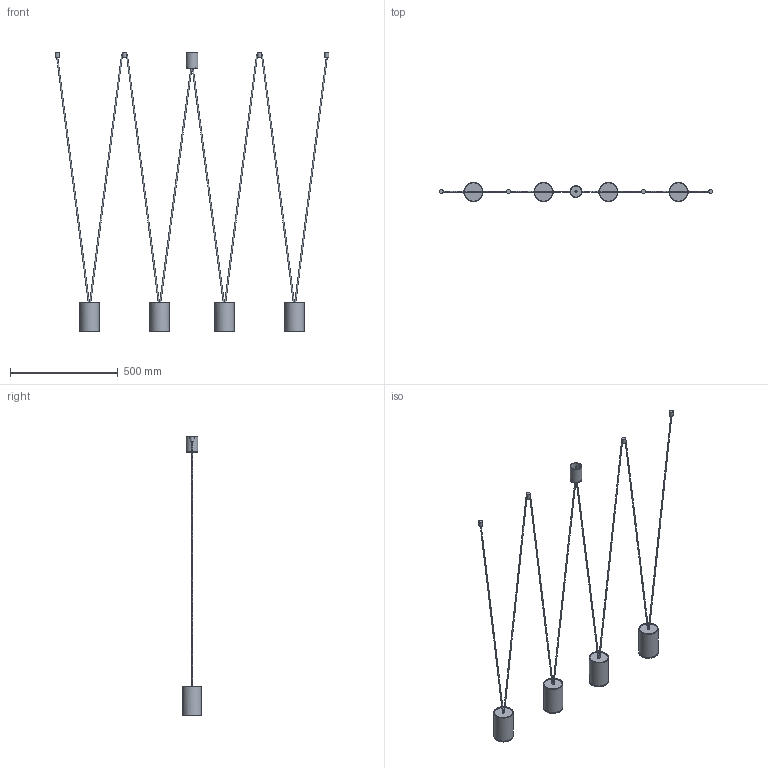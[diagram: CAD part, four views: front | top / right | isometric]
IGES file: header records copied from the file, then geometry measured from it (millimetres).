
Start section: SolidWorks IGES file using NURBS representation for surfaces
Global section: file name: Z:\Modele 3D_WWW\_KOLEKCJE_WWW\MORE-TONE\MORE-TONE-7816-7814\MORE-TONE-7816-7814.IGS; native system: SolidWorks 2021; preprocessor: SolidWorks 2021; author: gabriela.tworek; date: 211122.085654; units: millimetre
Bounding box: 1271.17 x 88.9 x 1300.2 mm (x, y, z)
Surface area: 654178.2 mm2 (no closed solid volume)
Topology: 0 solids, 0 shells, 140 faces, 618 edges, 542 vertices
Faces by surface type: bspline 140
